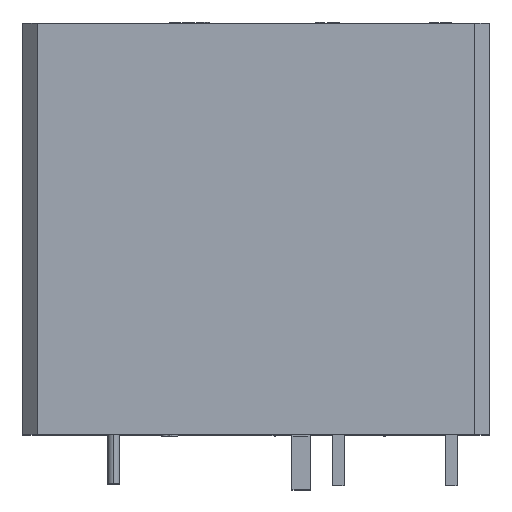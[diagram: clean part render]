
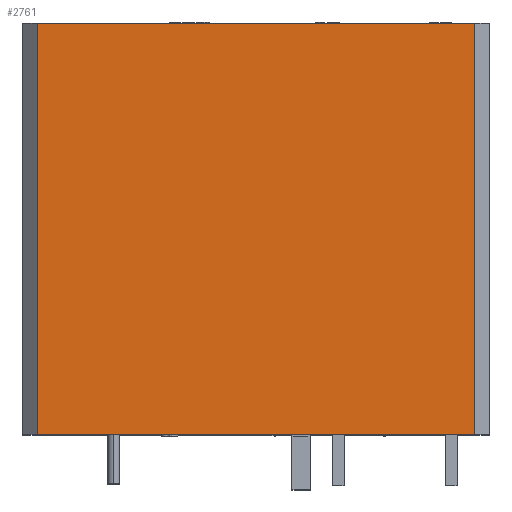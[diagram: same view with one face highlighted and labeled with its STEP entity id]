
A CAD part, top view. The second image highlights one B-rep face of the part: STEP entity #2761.
In plain terms, the highlighted planar face has unit normal (0, 0, 1).
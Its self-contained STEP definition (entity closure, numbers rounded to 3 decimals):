
#702 = VERTEX_POINT('',#703);
#703 = CARTESIAN_POINT('',(14.9,0.,13.4));
#709 = EDGE_CURVE('',#710,#702,#712,.T.);
#710 = VERTEX_POINT('',#711);
#711 = CARTESIAN_POINT('',(-14.9,0.,13.4));
#712 = LINE('',#713,#714);
#713 = CARTESIAN_POINT('',(-15.9,0.,13.4));
#714 = VECTOR('',#715,1.);
#715 = DIRECTION('',(1.,0.,0.));
#2040 = VERTEX_POINT('',#2041);
#2041 = CARTESIAN_POINT('',(-14.9,28.,13.4));
#2047 = EDGE_CURVE('',#2040,#2048,#2050,.T.);
#2048 = VERTEX_POINT('',#2049);
#2049 = CARTESIAN_POINT('',(14.9,28.,13.4));
#2050 = LINE('',#2051,#2052);
#2051 = CARTESIAN_POINT('',(-15.9,28.,13.4));
#2052 = VECTOR('',#2053,1.);
#2053 = DIRECTION('',(1.,0.,0.));
#2761 = ADVANCED_FACE('',(#2762),#2778,.F.);
#2762 = FACE_BOUND('',#2763,.T.);
#2763 = EDGE_LOOP('',(#2764,#2765,#2771,#2772));
#2764 = ORIENTED_EDGE('',*,*,#2047,.F.);
#2765 = ORIENTED_EDGE('',*,*,#2766,.T.);
#2766 = EDGE_CURVE('',#2040,#710,#2767,.T.);
#2767 = LINE('',#2768,#2769);
#2768 = CARTESIAN_POINT('',(-14.9,28.,13.4));
#2769 = VECTOR('',#2770,1.);
#2770 = DIRECTION('',(0.,-1.,0.));
#2771 = ORIENTED_EDGE('',*,*,#709,.T.);
#2772 = ORIENTED_EDGE('',*,*,#2773,.T.);
#2773 = EDGE_CURVE('',#702,#2048,#2774,.T.);
#2774 = LINE('',#2775,#2776);
#2775 = CARTESIAN_POINT('',(14.9,28.,13.4));
#2776 = VECTOR('',#2777,1.);
#2777 = DIRECTION('',(0.,1.,0.));
#2778 = PLANE('',#2779);
#2779 = AXIS2_PLACEMENT_3D('',#2780,#2781,#2782);
#2780 = CARTESIAN_POINT('',(-15.9,28.,13.4));
#2781 = DIRECTION('',(0.,0.,-1.));
#2782 = DIRECTION('',(-1.,0.,-0.));
